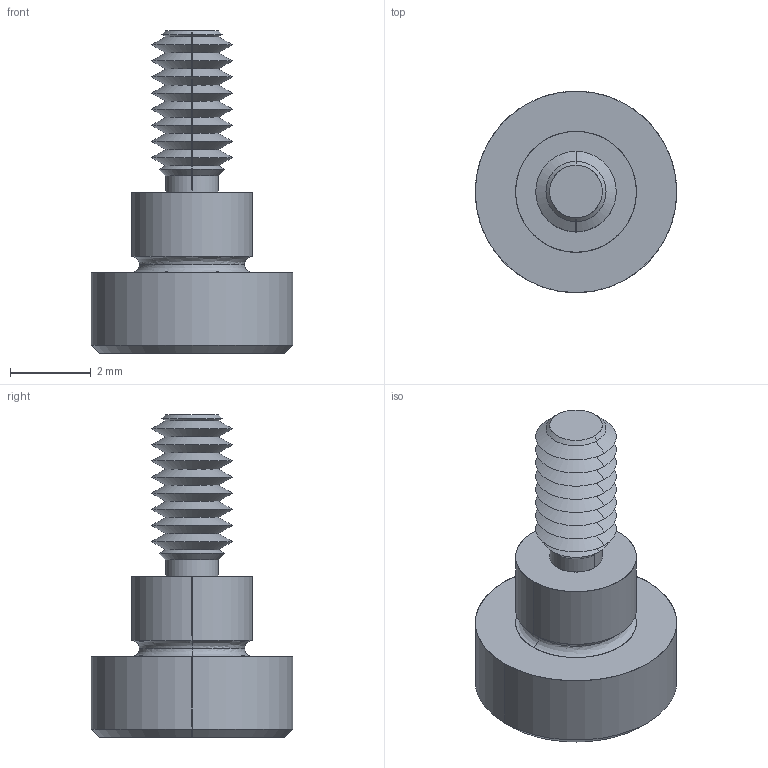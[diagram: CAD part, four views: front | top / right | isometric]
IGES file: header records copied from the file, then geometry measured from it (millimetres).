
Start section: SolidWorks IGES file using analytic representation for surfaces
Global section: file name: C:\Users\IanO\Documents\Temp Folder\GENERAL\SCREW REVISION\P0130_v2\P0130.T5_v2_20220106_IGES\P0130.030-002-T5.igs; native system: SolidWorks 2019; preprocessor: SolidWorks 2019; author: IanO; date: 220106.215736; units: millimetre
Bounding box: 5 x 5 x 8 mm (x, y, z)
Surface area: 135.1 mm2 (no closed solid volume)
Topology: 0 solids, 0 shells, 76 faces, 508 edges, 506 vertices
Faces by surface type: revolution 56, bspline 20
